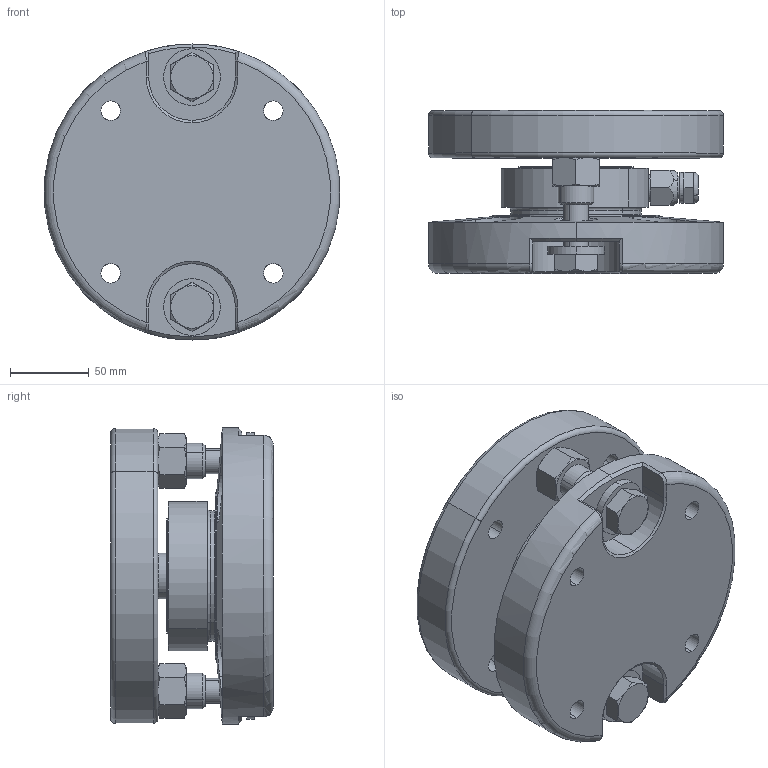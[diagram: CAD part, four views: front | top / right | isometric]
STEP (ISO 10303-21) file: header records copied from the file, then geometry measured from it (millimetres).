
FILE_DESCRIPTION (( 'STEP AP203' ), '1' );
FILE_NAME ('Load Point_HI HPLP-XX-22KLB.STEP', '2013-09-27T16:43:22', ( 'Jim' ), ( 'Hewlett-Packard Company' ), 'SwSTEP 2.0', 'SolidWorks 2013', '' );
FILE_SCHEMA (( 'CONFIG_CONTROL_DESIGN' ));
Length unit declared in the file: millimetre
Products named in the file (15): 22KLB - Element; 22KLB - Diaphram; 22KLB - Mount bottom plate _hold down; 22KLB - Weld Base; 22KLB - Mount top plate; 22KLB - Cable adaptor; 22KLB - Washer; 22KLB - Grommet; 22KLB - Base plate; 22KLB - Cable Nut; 22KLB - Insert; Load Sensor_HI HP50-SS-22KLB; heavy hex bolt_am_B18.2.3.6M - Heavy hex bolt M16 x 2.0 x 80 --38C-A2.70; Load Point_HI HPLP-XX-22KLB; 22KLB - Collar Nut
Assembly tree (18 placements, depth 3):
  Load Point_HI HPLP-XX-22KLB
    22KLB - Mount bottom plate _hold down
    22KLB - Mount top plate
    22KLB - Washer  x2
    22KLB - Base plate
    22KLB - Insert
    heavy hex bolt_am_B18.2.3.6M - Heavy hex bolt M16 x 2.0 x 80 --38C-A2.70  x2
    22KLB - Collar Nut  x2
    Load Sensor_HI HP50-SS-22KLB
      22KLB - Element
      22KLB - Diaphram  x2
      22KLB - Weld Base
      22KLB - Cable adaptor
      22KLB - Grommet
      22KLB - Cable Nut
Bounding box: 187.34 x 103.35 x 188 mm (x, y, z)
Volume: 1916955.9 mm3; surface area: 260419.3 mm2
Topology: 17 solids, 17 shells, 407 faces, 905 edges, 559 vertices
Faces by surface type: cylinder 143, plane 132, cone 86, torus 36, bspline 8, sphere 2
Entity records: 12602 total; most frequent: CARTESIAN_POINT 3317, DIRECTION 1691, ORIENTED_EDGE 1494, EDGE_CURVE 747, AXIS2_PLACEMENT_3D 713, VERTEX_POINT 465, EDGE_LOOP 394, CIRCLE 368
